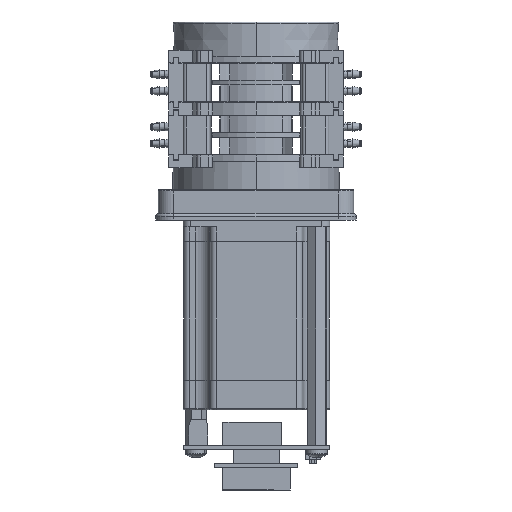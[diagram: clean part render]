
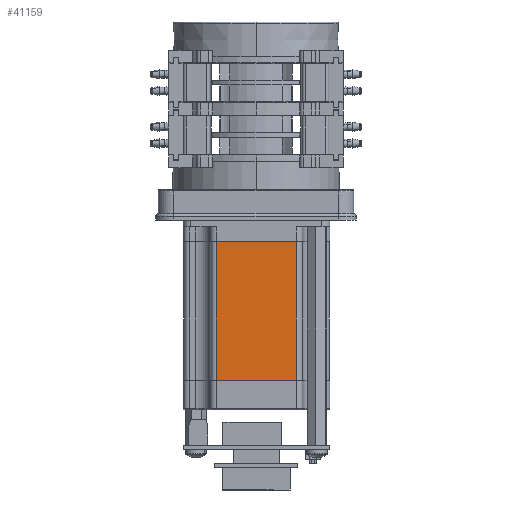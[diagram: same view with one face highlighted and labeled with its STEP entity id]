
A CAD part, left-side view. The second image highlights one B-rep face of the part: STEP entity #41159.
In plain terms, the highlighted planar face has unit normal (-1, 0, 0).
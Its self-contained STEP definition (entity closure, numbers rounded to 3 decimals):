
#157 = CARTESIAN_POINT ( 'NONE',  ( -28.354, -15.709, 49.705 ) ) ;
#723 = DIRECTION ( 'NONE',  ( 0., 1., 0. ) ) ;
#3527 = DIRECTION ( 'NONE',  ( 0., 0., 1. ) ) ;
#4327 = LINE ( 'NONE', #4615, #20961 ) ;
#4615 = CARTESIAN_POINT ( 'NONE',  ( -28.354, -15.709, 49.705 ) ) ;
#6701 = ORIENTED_EDGE ( 'NONE', *, *, #34307, .T. ) ;
#6788 = VERTEX_POINT ( 'NONE', #41964 ) ;
#7682 = VECTOR ( 'NONE', #13481, 1000. ) ;
#7954 = DIRECTION ( 'NONE',  ( 0., 0., -1. ) ) ;
#9193 = EDGE_CURVE ( 'NONE', #38734, #34295, #16487, .T. ) ;
#9594 = FACE_OUTER_BOUND ( 'NONE', #27135, .T. ) ;
#9768 = ORIENTED_EDGE ( 'NONE', *, *, #27707, .F. ) ;
#10016 = AXIS2_PLACEMENT_3D ( 'NONE', #157, #23422, #3527 ) ;
#12849 = ORIENTED_EDGE ( 'NONE', *, *, #9193, .T. ) ;
#13481 = DIRECTION ( 'NONE',  ( 0., 0., -1. ) ) ;
#15083 = LINE ( 'NONE', #42806, #23949 ) ;
#15204 = CARTESIAN_POINT ( 'NONE',  ( -28.354, 15.431, -41.405 ) ) ;
#16487 = LINE ( 'NONE', #26745, #7682 ) ;
#16697 = PLANE ( 'NONE',  #10016 ) ;
#17109 = CARTESIAN_POINT ( 'NONE',  ( -28.354, 15.431, -95.405 ) ) ;
#17293 = ORIENTED_EDGE ( 'NONE', *, *, #29996, .F. ) ;
#17637 = LINE ( 'NONE', #40541, #34326 ) ;
#19368 = VERTEX_POINT ( 'NONE', #21079 ) ;
#19554 = DIRECTION ( 'NONE',  ( 0., 1., 0. ) ) ;
#20961 = VECTOR ( 'NONE', #7954, 1000. ) ;
#21079 = CARTESIAN_POINT ( 'NONE',  ( -28.354, -15.709, -95.405 ) ) ;
#23422 = DIRECTION ( 'NONE',  ( -1., 0., 0. ) ) ;
#23949 = VECTOR ( 'NONE', #19554, 1000. ) ;
#26745 = CARTESIAN_POINT ( 'NONE',  ( -28.354, 15.431, 49.705 ) ) ;
#27135 = EDGE_LOOP ( 'NONE', ( #6701, #12849, #17293, #9768 ) ) ;
#27707 = EDGE_CURVE ( 'NONE', #6788, #19368, #4327, .T. ) ;
#29996 = EDGE_CURVE ( 'NONE', #19368, #34295, #15083, .T. ) ;
#34295 = VERTEX_POINT ( 'NONE', #17109 ) ;
#34307 = EDGE_CURVE ( 'NONE', #6788, #38734, #17637, .T. ) ;
#34326 = VECTOR ( 'NONE', #723, 1000. ) ;
#38734 = VERTEX_POINT ( 'NONE', #15204 ) ;
#40541 = CARTESIAN_POINT ( 'NONE',  ( -28.354, -15.709, -41.405 ) ) ;
#41159 = ADVANCED_FACE ( 'NONE', ( #9594 ), #16697, .T. ) ;
#41964 = CARTESIAN_POINT ( 'NONE',  ( -28.354, -15.709, -41.405 ) ) ;
#42806 = CARTESIAN_POINT ( 'NONE',  ( -28.354, -15.709, -95.405 ) ) ;
